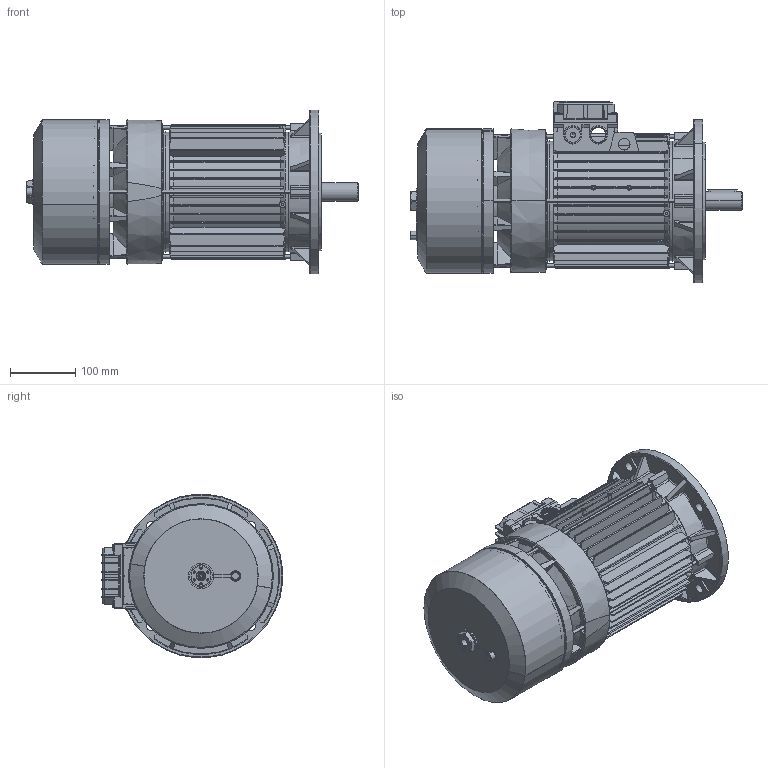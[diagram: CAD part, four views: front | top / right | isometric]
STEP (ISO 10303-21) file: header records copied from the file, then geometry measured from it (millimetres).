
FILE_DESCRIPTION (( 'STEP AP214' ), '1' );
FILE_NAME ('BA 112 B5.STEP', '2018-01-29T14:59:37', ( '' ), ( '' ), 'SwSTEP 2.0', 'SolidWorks 2017', '' );
FILE_SCHEMA (( 'AUTOMOTIVE_DESIGN' ));
Length unit declared in the file: millimetre
Products named in the file (14): O-ring freno BA 112; Vite a Testa Esagona con foro e tappo 71-112 - Modificata; Scudo a flangia B5 Fi 250 BA-BM 112; Chiavetta 100-112; Cuffia serie BA 112; Convogliatore con pista di attrito P2 BA 112-6; Scudo Lato Freno BA 112 P1 - DFAE0094; Albero BA 112; Carcassa 112 B5; BA 112 B5; Tirante BA 112 - DBA60094; Coperchio per Scatola Singola 90 - 100 - 112 con viti; Vite per coperchio morsettiera; Coperchio per Scatola Singola 90 - 100 - 112
Assembly tree (19 placements, depth 3):
  BA 112 B5
    Carcassa 112 B5
    Albero BA 112
    Scudo Lato Freno BA 112 P1 - DFAE0094
    Convogliatore con pista di attrito P2 BA 112-6
    Cuffia serie BA 112
    Chiavetta 100-112
    Scudo a flangia B5 Fi 250 BA-BM 112
    Vite a Testa Esagona con foro e tappo 71-112 - Modificata
    O-ring freno BA 112
    Coperchio per Scatola Singola 90 - 100 - 112 con viti
      Coperchio per Scatola Singola 90 - 100 - 112
      Vite per coperchio morsettiera  x4
    Tirante BA 112 - DBA60094  x4
Bounding box: 507.18 x 276.52 x 249.05 mm (x, y, z)
Volume: 2650090.7 mm3; surface area: 1364120 mm2
Topology: 22 solids, 22 shells, 2975 faces, 7940 edges, 5003 vertices
Faces by surface type: plane 968, cylinder 791, cone 479, torus 410, bspline 327
Entity records: 107556 total; most frequent: CARTESIAN_POINT 39668, ORIENTED_EDGE 14648, DIRECTION 12088, EDGE_CURVE 7324, AXIS2_PLACEMENT_3D 4773, VERTEX_POINT 4673, EDGE_LOOP 2855, ADVANCED_FACE 2717
